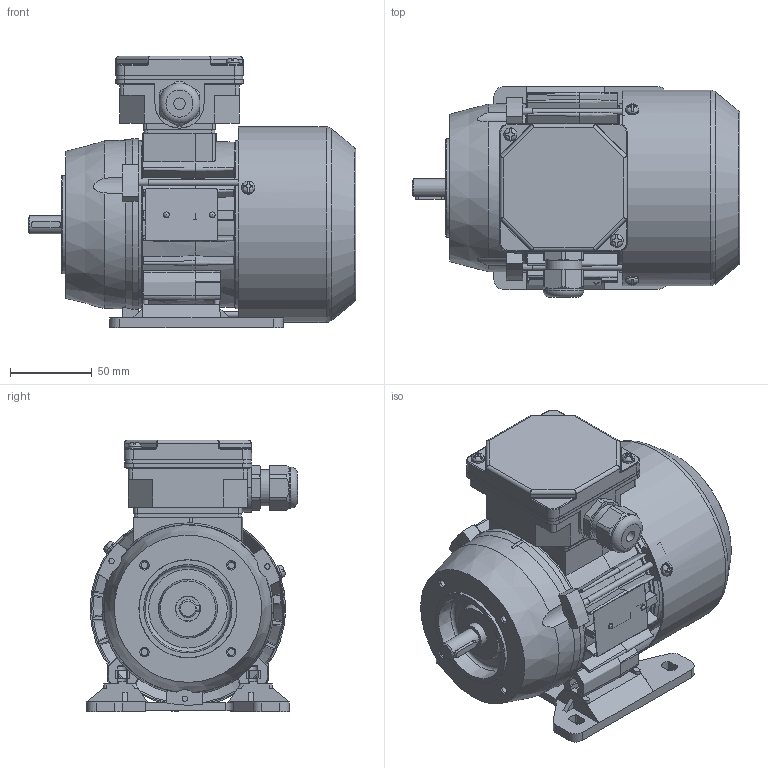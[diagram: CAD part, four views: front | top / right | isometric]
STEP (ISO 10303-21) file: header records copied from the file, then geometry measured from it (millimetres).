
FILE_DESCRIPTION( ( 'Unknown' ), '1' );
FILE_NAME( 'G:/Poczta Tk-1/STP/w.m.63/Sh63/SLh63-A2.stp', 'Unknown', ( 'K. Szlosek' ), ( 'BESEL S.A.' ), 'PSStep 17.0.49', 'Unknown', ' ' );
FILE_SCHEMA( ( 'AUTOMOTIVE_DESIGN { 1 0 10303 214 1 1 1 1 }' ) );
Length unit declared in the file: millimetre
Products named in the file (30): Assem1; K2-0860 Pokrywka skrzynki zaciskowej; K3-9973 Kadłub ze stojanem wykończonym Sh63-B; K1-1112 Tarcza kołnierzowa B14_2 SKg63-..2; Wpust A4x4x18; K3-5320 Tarcza łożyskowa P Sg63; Wkręt samogwintujący M4x8; K3-9974 Wał Sh63-B; K2-1769 Przewietrznik Sg63; K4-2320 Uszczelka nr 1 Sh71,80; K4-2820 Uszczelka nr 2 Sh71,80; Wkręt samogwintujący M4x16; Nitokołek A 2x6; K3-11364 osłona przewietrznika Sh63-A; Łożysko 6202; Śruba ściągająca E_M4x80; K2-0859 Podstawa skrzynki 6-cio zaciskowej; Dławnica M20x1,5; Tabliczka znamionowa 32x44; K1-1107 Łapa Sg63-.. w. robocza
Assembly tree (46 placements, depth 2):
  Assem1
    K2-0860 Pokrywka skrzynki zaciskowej
    K3-9973 Kadłub ze stojanem wykończonym Sh63-B
    K1-1112 Tarcza kołnierzowa B14_2 SKg63-..2
    Wpust A4x4x18
    K3-5320 Tarcza łożyskowa P Sg63
    Wkręt samogwintujący M4x8  x3
    K3-9974 Wał Sh63-B
    K2-1769 Przewietrznik Sg63
    K4-2320 Uszczelka nr 1 Sh71,80
    K4-2820 Uszczelka nr 2 Sh71,80
    Wkręt samogwintujący M4x16  x2
    Nitokołek A 2x6  x2
    K3-11364 osłona przewietrznika Sh63-A
    Łożysko 6202  x2
    Łożysko 6202  x2
    Łożysko 6202  x2
    Łożysko 6202  x2
    Łożysko 6202  x2
    Łożysko 6202  x2
    Łożysko 6202  x2
    Łożysko 6202  x2
    Łożysko 6202  x2
    Łożysko 6202  x2
    Łożysko 6202  x2
    Śruba ściągająca E_M4x80  x3
    K2-0859 Podstawa skrzynki 6-cio zaciskowej
    Dławnica M20x1,5
    Tabliczka znamionowa 32x44
    K1-1107 Łapa Sg63-.. w. robocza
Bounding box: 200.3 x 129 x 166 mm (x, y, z)
Volume: 544021.4 mm3; surface area: 353694 mm2
Topology: 46 solids, 64 shells, 1996 faces, 5489 edges, 3561 vertices
Faces by surface type: plane 1014, cylinder 588, cone 142, torus 116, bspline 97, sphere 39
Full cylindrical faces by diameter (mm): 2 x2, 2.4 x2, 3.242 x3, 3.7 x10, 4 x8, 4.134 x4, 4.5 x4, 4.8 x4, 5 x4, 5.8 x4, 7 x4, 8 x6, 11 x1, 12.9 x1, 13.1 x1, 13.5 x1, 15 x4, 15.4 x2, 18.376 x1, 18.38 x1, 19 x2, 19.5 x1, 20 x2, 20.1 x1, 21.52 x4, 22.3 x1, 25 x1, 28 x2, 28.48 x4, 31 x2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
Entity records: 86830 total; most frequent: CARTESIAN_POINT 26250, ORIENTED_EDGE 9532, DIRECTION 9148, EDGE_CURVE 4766, AXIS2_PLACEMENT_3D 3375, VERTEX_POINT 3238, LINE 2398, VECTOR 2398
